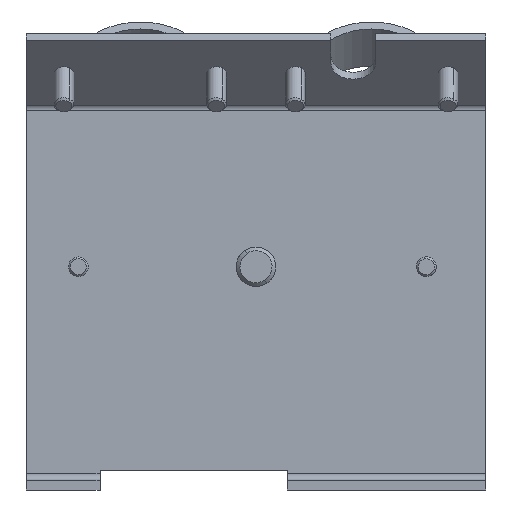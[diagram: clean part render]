
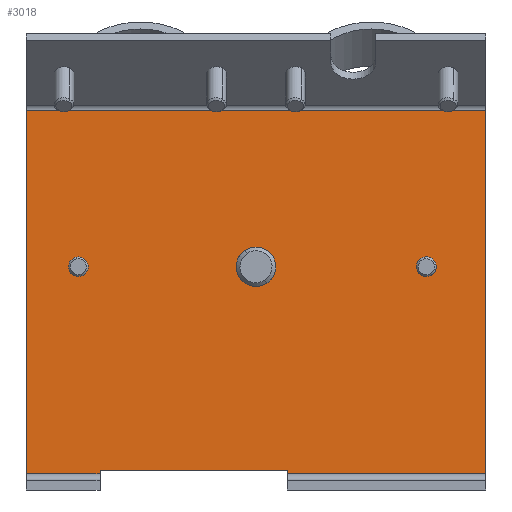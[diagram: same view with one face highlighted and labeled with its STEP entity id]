
A CAD part, front view. The second image highlights one B-rep face of the part: STEP entity #3018.
In plain terms, the highlighted planar face has unit normal (0, -1, 0).
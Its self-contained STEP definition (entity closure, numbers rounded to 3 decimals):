
#4 = LINE ( 'NONE', #1429, #1294 ) ;
#56 = CARTESIAN_POINT ( 'NONE',  ( 70., 11.5, -14.036 ) ) ;
#66 = EDGE_CURVE ( 'NONE', #2921, #3435, #1990, .T. ) ;
#134 = AXIS2_PLACEMENT_3D ( 'NONE', #1145, #3529, #1503 ) ;
#137 = VERTEX_POINT ( 'NONE', #2050 ) ;
#141 = DIRECTION ( 'NONE',  ( -1., 0., 0. ) ) ;
#190 = EDGE_LOOP ( 'NONE', ( #1327, #4395 ) ) ;
#195 = VERTEX_POINT ( 'NONE', #2145 ) ;
#229 = CARTESIAN_POINT ( 'NONE',  ( 7.944, 11.5, -37.868 ) ) ;
#249 = LINE ( 'NONE', #2757, #905 ) ;
#329 = EDGE_CURVE ( 'NONE', #195, #4166, #3541, .T. ) ;
#372 = EDGE_CURVE ( 'NONE', #3435, #1846, #4356, .T. ) ;
#475 = EDGE_CURVE ( 'NONE', #3883, #4114, #1202, .T. ) ;
#478 = VERTEX_POINT ( 'NONE', #1162 ) ;
#574 = CARTESIAN_POINT ( 'NONE',  ( 35., 11.5, -40.868 ) ) ;
#648 = CARTESIAN_POINT ( 'NONE',  ( 70., 11.5, -68.868 ) ) ;
#722 = AXIS2_PLACEMENT_3D ( 'NONE', #229, #1831, #1590 ) ;
#732 = CARTESIAN_POINT ( 'NONE',  ( 70., 11.5, -69.368 ) ) ;
#782 = CARTESIAN_POINT ( 'NONE',  ( 39.75, 11.5, -68.868 ) ) ;
#848 = CARTESIAN_POINT ( 'NONE',  ( 70., 11.5, -69.368 ) ) ;
#872 = VERTEX_POINT ( 'NONE', #782 ) ;
#881 = EDGE_CURVE ( 'NONE', #1616, #137, #4, .T. ) ;
#905 = VECTOR ( 'NONE', #3108, 1000. ) ;
#940 = EDGE_CURVE ( 'NONE', #1846, #872, #3419, .T. ) ;
#1023 = VECTOR ( 'NONE', #3550, 1000. ) ;
#1087 = VECTOR ( 'NONE', #1628, 1000. ) ;
#1128 = PLANE ( 'NONE',  #1889 ) ;
#1145 = CARTESIAN_POINT ( 'NONE',  ( 60.944, 11.5, -37.868 ) ) ;
#1162 = CARTESIAN_POINT ( 'NONE',  ( 35., 11.5, -34.868 ) ) ;
#1165 = FACE_BOUND ( 'NONE', #1302, .T. ) ;
#1202 = CIRCLE ( 'NONE', #134, 1.5 ) ;
#1209 = AXIS2_PLACEMENT_3D ( 'NONE', #3512, #1487, #3858 ) ;
#1237 = VERTEX_POINT ( 'NONE', #574 ) ;
#1240 = FACE_OUTER_BOUND ( 'NONE', #1954, .T. ) ;
#1242 = DIRECTION ( 'NONE',  ( 0., 1., 0. ) ) ;
#1294 = VECTOR ( 'NONE', #2197, 1000. ) ;
#1302 = EDGE_LOOP ( 'NONE', ( #4133, #1662 ) ) ;
#1306 = CARTESIAN_POINT ( 'NONE',  ( 60.944, 11.5, -37.868 ) ) ;
#1318 = ORIENTED_EDGE ( 'NONE', *, *, #372, .F. ) ;
#1323 = CARTESIAN_POINT ( 'NONE',  ( 0., 11.5, -14.036 ) ) ;
#1324 = ORIENTED_EDGE ( 'NONE', *, *, #2092, .T. ) ;
#1327 = ORIENTED_EDGE ( 'NONE', *, *, #3014, .T. ) ;
#1362 = VECTOR ( 'NONE', #1452, 1000. ) ;
#1429 = CARTESIAN_POINT ( 'NONE',  ( 70., 11.5, -69.368 ) ) ;
#1452 = DIRECTION ( 'NONE',  ( 0., 0., 1. ) ) ;
#1453 = DIRECTION ( 'NONE',  ( -1., 0., 0. ) ) ;
#1487 = DIRECTION ( 'NONE',  ( 0., 1., 0. ) ) ;
#1503 = DIRECTION ( 'NONE',  ( 0., 0., 1. ) ) ;
#1537 = VECTOR ( 'NONE', #4053, 1000. ) ;
#1590 = DIRECTION ( 'NONE',  ( 0., 0., 1. ) ) ;
#1616 = VERTEX_POINT ( 'NONE', #1836 ) ;
#1628 = DIRECTION ( 'NONE',  ( 0., 0., -1. ) ) ;
#1652 = DIRECTION ( 'NONE',  ( 0., 0., 1. ) ) ;
#1657 = EDGE_CURVE ( 'NONE', #1237, #478, #3879, .T. ) ;
#1662 = ORIENTED_EDGE ( 'NONE', *, *, #1657, .T. ) ;
#1718 = ORIENTED_EDGE ( 'NONE', *, *, #4322, .F. ) ;
#1721 = EDGE_CURVE ( 'NONE', #478, #1237, #2308, .T. ) ;
#1786 = AXIS2_PLACEMENT_3D ( 'NONE', #3272, #1242, #3618 ) ;
#1831 = DIRECTION ( 'NONE',  ( 0., 1., 0. ) ) ;
#1836 = CARTESIAN_POINT ( 'NONE',  ( 11.25, 11.5, -69.368 ) ) ;
#1846 = VERTEX_POINT ( 'NONE', #2301 ) ;
#1863 = DIRECTION ( 'NONE',  ( 0., 1., 0. ) ) ;
#1882 = DIRECTION ( 'NONE',  ( 0., 1., 0. ) ) ;
#1889 = AXIS2_PLACEMENT_3D ( 'NONE', #3494, #1882, #4273 ) ;
#1915 = ORIENTED_EDGE ( 'NONE', *, *, #4205, .T. ) ;
#1940 = LINE ( 'NONE', #2841, #1023 ) ;
#1954 = EDGE_LOOP ( 'NONE', ( #3724, #1318, #3259, #1915, #1324, #3913, #1718, #2105 ) ) ;
#1990 = LINE ( 'NONE', #4207, #1087 ) ;
#2050 = CARTESIAN_POINT ( 'NONE',  ( 0., 11.5, -69.368 ) ) ;
#2076 = CARTESIAN_POINT ( 'NONE',  ( 70., 11.5, -14.036 ) ) ;
#2078 = CARTESIAN_POINT ( 'NONE',  ( 60.944, 11.5, -36.368 ) ) ;
#2092 = EDGE_CURVE ( 'NONE', #2753, #137, #249, .T. ) ;
#2105 = ORIENTED_EDGE ( 'NONE', *, *, #3301, .F. ) ;
#2145 = CARTESIAN_POINT ( 'NONE',  ( 7.944, 11.5, -39.368 ) ) ;
#2197 = DIRECTION ( 'NONE',  ( -1., 0., 0. ) ) ;
#2291 = VERTEX_POINT ( 'NONE', #2500 ) ;
#2301 = CARTESIAN_POINT ( 'NONE',  ( 39.75, 11.5, -69.368 ) ) ;
#2308 = CIRCLE ( 'NONE', #1786, 3. ) ;
#2329 = EDGE_LOOP ( 'NONE', ( #3635, #3019 ) ) ;
#2403 = LINE ( 'NONE', #648, #1537 ) ;
#2407 = CARTESIAN_POINT ( 'NONE',  ( 7.944, 11.5, -36.368 ) ) ;
#2500 = CARTESIAN_POINT ( 'NONE',  ( 11.25, 11.5, -68.868 ) ) ;
#2519 = FACE_BOUND ( 'NONE', #190, .T. ) ;
#2618 = VECTOR ( 'NONE', #141, 1000. ) ;
#2694 = EDGE_CURVE ( 'NONE', #4114, #3883, #3036, .T. ) ;
#2725 = AXIS2_PLACEMENT_3D ( 'NONE', #1306, #3683, #1652 ) ;
#2753 = VERTEX_POINT ( 'NONE', #1323 ) ;
#2757 = CARTESIAN_POINT ( 'NONE',  ( 0., 11.5, -14.036 ) ) ;
#2841 = CARTESIAN_POINT ( 'NONE',  ( 11.25, 11.5, -14.036 ) ) ;
#2910 = FACE_BOUND ( 'NONE', #2329, .T. ) ;
#2921 = VERTEX_POINT ( 'NONE', #2076 ) ;
#2989 = CIRCLE ( 'NONE', #1209, 1.5 ) ;
#3014 = EDGE_CURVE ( 'NONE', #4166, #195, #2989, .T. ) ;
#3018 = ADVANCED_FACE ( 'NONE', ( #2519, #2910, #1165, #1240 ), #1128, .F. ) ;
#3019 = ORIENTED_EDGE ( 'NONE', *, *, #475, .T. ) ;
#3036 = CIRCLE ( 'NONE', #2725, 1.5 ) ;
#3108 = DIRECTION ( 'NONE',  ( 0., 0., -1. ) ) ;
#3160 = VECTOR ( 'NONE', #1453, 1000. ) ;
#3259 = ORIENTED_EDGE ( 'NONE', *, *, #66, .F. ) ;
#3272 = CARTESIAN_POINT ( 'NONE',  ( 35., 11.5, -37.868 ) ) ;
#3301 = EDGE_CURVE ( 'NONE', #872, #2291, #2403, .T. ) ;
#3419 = LINE ( 'NONE', #4175, #1362 ) ;
#3435 = VERTEX_POINT ( 'NONE', #732 ) ;
#3494 = CARTESIAN_POINT ( 'NONE',  ( 70., 11.5, -14.036 ) ) ;
#3512 = CARTESIAN_POINT ( 'NONE',  ( 7.944, 11.5, -37.868 ) ) ;
#3529 = DIRECTION ( 'NONE',  ( 0., 1., 0. ) ) ;
#3541 = CIRCLE ( 'NONE', #722, 1.5 ) ;
#3550 = DIRECTION ( 'NONE',  ( 0., 0., -1. ) ) ;
#3618 = DIRECTION ( 'NONE',  ( 0., 0., 1. ) ) ;
#3635 = ORIENTED_EDGE ( 'NONE', *, *, #2694, .T. ) ;
#3683 = DIRECTION ( 'NONE',  ( 0., 1., 0. ) ) ;
#3724 = ORIENTED_EDGE ( 'NONE', *, *, #940, .F. ) ;
#3858 = DIRECTION ( 'NONE',  ( 0., 0., 1. ) ) ;
#3879 = CIRCLE ( 'NONE', #3929, 3. ) ;
#3883 = VERTEX_POINT ( 'NONE', #4357 ) ;
#3904 = CARTESIAN_POINT ( 'NONE',  ( 35., 11.5, -37.868 ) ) ;
#3913 = ORIENTED_EDGE ( 'NONE', *, *, #881, .F. ) ;
#3929 = AXIS2_PLACEMENT_3D ( 'NONE', #3904, #1863, #4259 ) ;
#4053 = DIRECTION ( 'NONE',  ( -1., 0., 0. ) ) ;
#4114 = VERTEX_POINT ( 'NONE', #2078 ) ;
#4133 = ORIENTED_EDGE ( 'NONE', *, *, #1721, .T. ) ;
#4166 = VERTEX_POINT ( 'NONE', #2407 ) ;
#4175 = CARTESIAN_POINT ( 'NONE',  ( 39.75, 11.5, -14.036 ) ) ;
#4186 = LINE ( 'NONE', #56, #3160 ) ;
#4205 = EDGE_CURVE ( 'NONE', #2921, #2753, #4186, .T. ) ;
#4207 = CARTESIAN_POINT ( 'NONE',  ( 70., 11.5, -14.036 ) ) ;
#4259 = DIRECTION ( 'NONE',  ( 0., 0., 1. ) ) ;
#4273 = DIRECTION ( 'NONE',  ( 0., 0., 1. ) ) ;
#4322 = EDGE_CURVE ( 'NONE', #2291, #1616, #1940, .T. ) ;
#4356 = LINE ( 'NONE', #848, #2618 ) ;
#4357 = CARTESIAN_POINT ( 'NONE',  ( 60.944, 11.5, -39.368 ) ) ;
#4395 = ORIENTED_EDGE ( 'NONE', *, *, #329, .T. ) ;
